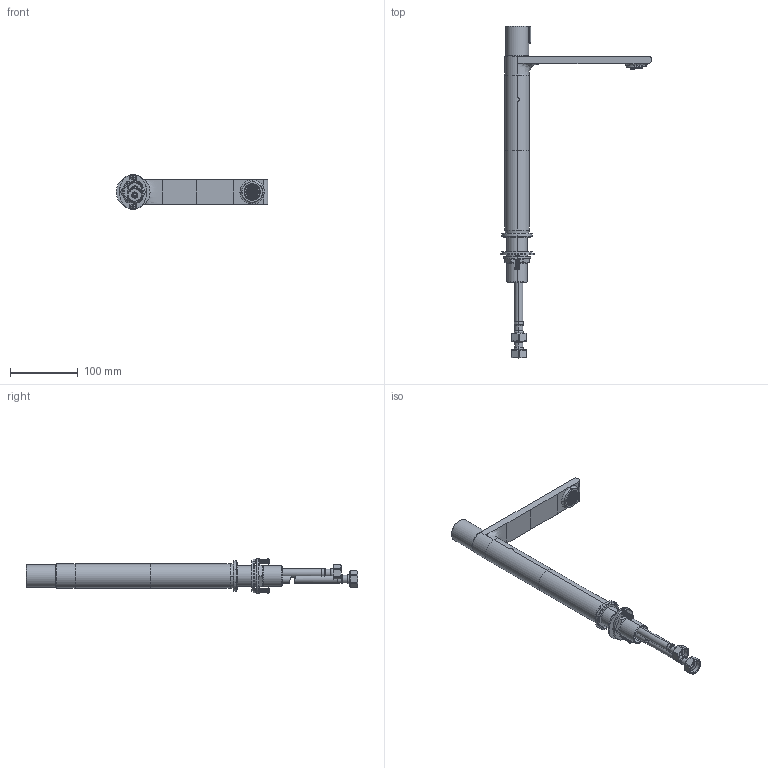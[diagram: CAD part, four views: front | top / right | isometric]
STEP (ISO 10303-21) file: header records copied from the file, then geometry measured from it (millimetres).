
FILE_DESCRIPTION((''),'2;1');
FILE_NAME('1152100_ASM_ASM','2021-10-14T',('RD001'),(''),'PRO/ENGINEER BY PARAMETRIC TECHNOLOGY CORPORATION, 2011310','PRO/ENGINEER BY PARAMETRIC TECHNOLOGY CORPORATION, 2011310','');
FILE_SCHEMA(('CONFIG_CONTROL_DESIGN'));
Length unit declared in the file: millimetre
Products named in the file (19): 511521-0100_4; 65303141_3; 7609271-0100_3; 7609271-0200_3; 7609270-0341_3; 60927100_ASM_3_ASM; 511520-0400_2; 61500742_3; MANIFOLD_SOLID_BREP_53254; MANIFOLD_SOLID_BREP_54694; 61710312_3_ASM; 61625242_1; 61625712_1; 61325322_1; 61326499_1; 61107512_1; 61326499_ASM_1_ASM; 1152100_ASM_4_ASM; 1152100_ASM_ASM
Assembly tree (20 placements, depth 4):
  1152100_ASM_ASM
    1152100_ASM_4_ASM
      511521-0100_4
      65303141_3
      60927100_ASM_3_ASM
        7609271-0100_3
        7609271-0200_3
        7609270-0341_3
      511520-0400_2
      61500742_3
      61710312_3_ASM  x2
        MANIFOLD_SOLID_BREP_53254
        MANIFOLD_SOLID_BREP_54694
      61625242_1
      61625712_1
      61325322_1
      61326499_ASM_1_ASM
        61326499_1
        61107512_1  x2
Bounding box: 224 x 490.3 x 51 mm (x, y, z)
Volume: 453302.2 mm3; surface area: 115264.4 mm2
Topology: 17 solids, 17 shells, 849 faces, 2494 edges, 1682 vertices
Faces by surface type: cylinder 495, plane 183, cone 70, bspline 46, torus 44, extrusion 6, revolution 4, sphere 1
Entity records: 36053 total; most frequent: CARTESIAN_POINT 16524, ORIENTED_EDGE 4154, DIRECTION 3833, EDGE_CURVE 2077, AXIS2_PLACEMENT_3D 1571, VERTEX_POINT 1391, EDGE_LOOP 994, CIRCLE 845
